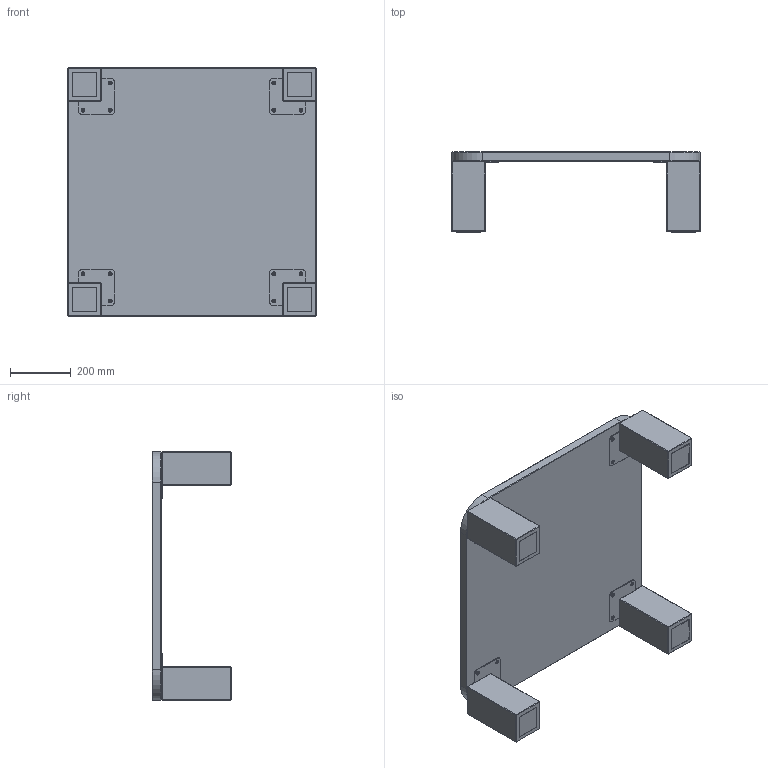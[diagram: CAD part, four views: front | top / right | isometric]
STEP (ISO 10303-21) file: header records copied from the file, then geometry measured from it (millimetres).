
FILE_DESCRIPTION (( 'STEP AP214' ), '1' );
FILE_NAME ('Atlas 820.STEP', '2022-09-05T08:54:49', ( '' ), ( '' ), 'SwSTEP 2.0', 'SolidWorks 2021', '' );
FILE_SCHEMA (( 'AUTOMOTIVE_DESIGN' ));
Length unit declared in the file: millimetre
Products named in the file (7): Atlas 820; 426 9003; socket countersunk head screw_iso_ISO 10642 - M6 x 16 - 16C; 820x820 Leg assembly; 426 9001; 426 9002; 426 9004
Assembly tree (14 placements, depth 3):
  Atlas 820
    820x820 Leg assembly  x4
      426 9001
      426 9002
      426 9003
      socket countersunk head screw_iso_ISO 10642 - M6 x 16 - 16C
    426 9004
Bounding box: 820 x 263.5 x 820 mm (x, y, z)
Volume: 31207425.2 mm3; surface area: 2098589.6 mm2
Topology: 37 solids, 37 shells, 1026 faces, 2256 edges, 1256 vertices
Faces by surface type: plane 538, cone 276, cylinder 164, torus 48
Entity records: 5598 total; most frequent: DIRECTION 1010, CARTESIAN_POINT 884, ORIENTED_EDGE 840, EDGE_CURVE 420, AXIS2_PLACEMENT_3D 372, LINE 266, VECTOR 266, VERTEX_POINT 246
